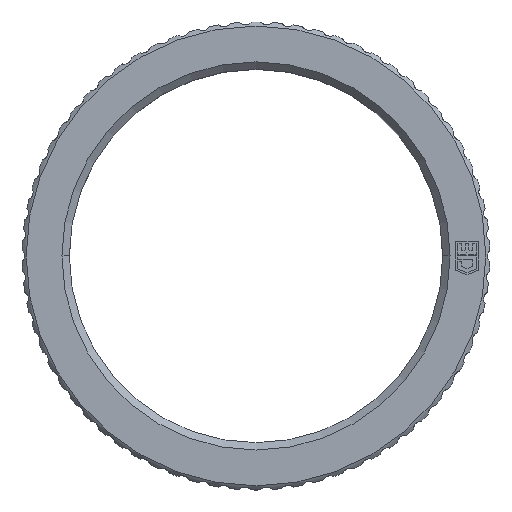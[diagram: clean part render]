
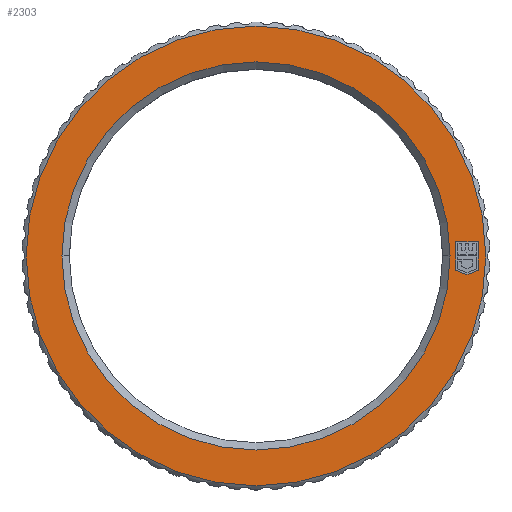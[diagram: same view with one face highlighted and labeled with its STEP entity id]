
A CAD part, top view. The second image highlights one B-rep face of the part: STEP entity #2303.
In plain terms, the highlighted planar face has unit normal (0, 0, 1).
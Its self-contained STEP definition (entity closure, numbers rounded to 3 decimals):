
#2011 = VERTEX_POINT ( 'NONE', #4469 ) ;
#2194 = VERTEX_POINT ( 'NONE', #4862 ) ;
#2197 = EDGE_CURVE ( 'NONE', #2194, #2011, #4861, .T. ) ;
#2228 = EDGE_CURVE ( 'NONE', #2229, #2235, #4926, .T. ) ;
#2229 = VERTEX_POINT ( 'NONE', #4917 ) ;
#2235 = VERTEX_POINT ( 'NONE', #4965 ) ;
#2291 = EDGE_LOOP ( 'NONE', ( #2372, #2362 ) ) ;
#2292 = EDGE_CURVE ( 'NONE', #2011, #2194, #5110, .T. ) ;
#2293 = ORIENTED_EDGE ( 'NONE', *, *, #2294, .T. ) ;
#2294 = EDGE_CURVE ( 'NONE', #2371, #2354, #5105, .T. ) ;
#2295 = ORIENTED_EDGE ( 'NONE', *, *, #2343, .T. ) ;
#2303 = ADVANCED_FACE ( 'NONE', ( #5141, #5140, #5139 ), #5138, .F. ) ;
#2304 = EDGE_LOOP ( 'NONE', ( #2305, #2353 ) ) ;
#2305 = ORIENTED_EDGE ( 'NONE', *, *, #2292, .T. ) ;
#2337 = EDGE_LOOP ( 'NONE', ( #2413, #2351, #2293, #2295, #2344 ) ) ;
#2343 = EDGE_CURVE ( 'NONE', #2354, #2361, #5225, .T. ) ;
#2344 = ORIENTED_EDGE ( 'NONE', *, *, #2345, .T. ) ;
#2345 = EDGE_CURVE ( 'NONE', #2361, #2407, #5221, .T. ) ;
#2351 = ORIENTED_EDGE ( 'NONE', *, *, #2352, .T. ) ;
#2352 = EDGE_CURVE ( 'NONE', #2401, #2371, #5275, .T. ) ;
#2353 = ORIENTED_EDGE ( 'NONE', *, *, #2197, .T. ) ;
#2354 = VERTEX_POINT ( 'NONE', #5266 ) ;
#2361 = VERTEX_POINT ( 'NONE', #5254 ) ;
#2362 = ORIENTED_EDGE ( 'NONE', *, *, #2402, .T. ) ;
#2371 = VERTEX_POINT ( 'NONE', #5301 ) ;
#2372 = ORIENTED_EDGE ( 'NONE', *, *, #2228, .T. ) ;
#2401 = VERTEX_POINT ( 'NONE', #5364 ) ;
#2402 = EDGE_CURVE ( 'NONE', #2235, #2229, #5362, .T. ) ;
#2407 = VERTEX_POINT ( 'NONE', #5348 ) ;
#2413 = ORIENTED_EDGE ( 'NONE', *, *, #2414, .T. ) ;
#2414 = EDGE_CURVE ( 'NONE', #2407, #2401, #5402, .T. ) ;
#4469 = CARTESIAN_POINT ( 'NONE',  ( -28., 0., 0. ) ) ;
#4857 = DIRECTION ( 'NONE',  ( 1., 0., 0. ) ) ;
#4858 = DIRECTION ( 'NONE',  ( 0., 0., 1. ) ) ;
#4859 = CARTESIAN_POINT ( 'NONE',  ( 0., 0., 0. ) ) ;
#4860 = AXIS2_PLACEMENT_3D ( 'NONE', #4859, #4858, #4857 ) ;
#4861 = CIRCLE ( 'NONE', #4860, 28. ) ;
#4862 = CARTESIAN_POINT ( 'NONE',  ( 28., 0., 0. ) ) ;
#4917 = CARTESIAN_POINT ( 'NONE',  ( 23.64, 0., 0. ) ) ;
#4918 = DIRECTION ( 'NONE',  ( -1., 0., 0. ) ) ;
#4919 = DIRECTION ( 'NONE',  ( 0., 0., -1. ) ) ;
#4920 = CARTESIAN_POINT ( 'NONE',  ( 0., 0., 0. ) ) ;
#4921 = AXIS2_PLACEMENT_3D ( 'NONE', #4920, #4919, #4918 ) ;
#4926 = CIRCLE ( 'NONE', #4921, 23.64 ) ;
#4965 = CARTESIAN_POINT ( 'NONE',  ( -23.64, 0., 0. ) ) ;
#5102 = DIRECTION ( 'NONE',  ( 1., 0., 0. ) ) ;
#5103 = VECTOR ( 'NONE', #5102, 1000. ) ;
#5104 = CARTESIAN_POINT ( 'NONE',  ( 24.35, 1.72, 0. ) ) ;
#5105 = LINE ( 'NONE', #5104, #5103 ) ;
#5106 = DIRECTION ( 'NONE',  ( 1., 0., 0. ) ) ;
#5107 = DIRECTION ( 'NONE',  ( 0., 0., 1. ) ) ;
#5108 = CARTESIAN_POINT ( 'NONE',  ( 0., 0., 0. ) ) ;
#5109 = AXIS2_PLACEMENT_3D ( 'NONE', #5108, #5107, #5106 ) ;
#5110 = CIRCLE ( 'NONE', #5109, 28. ) ;
#5134 = DIRECTION ( 'NONE',  ( -1., 0., 0. ) ) ;
#5135 = DIRECTION ( 'NONE',  ( 0., 0., -1. ) ) ;
#5136 = CARTESIAN_POINT ( 'NONE',  ( 0., 0., 0. ) ) ;
#5137 = AXIS2_PLACEMENT_3D ( 'NONE', #5136, #5135, #5134 ) ;
#5138 = PLANE ( 'NONE',  #5137 ) ;
#5139 = FACE_BOUND ( 'NONE', #2337, .T. ) ;
#5140 = FACE_BOUND ( 'NONE', #2291, .T. ) ;
#5141 = FACE_OUTER_BOUND ( 'NONE', #2304, .T. ) ;
#5218 = DIRECTION ( 'NONE',  ( -0.924, -0.383, 0. ) ) ;
#5219 = VECTOR ( 'NONE', #5218, 1000. ) ;
#5220 = CARTESIAN_POINT ( 'NONE',  ( 25.7, -2.28, 0. ) ) ;
#5221 = LINE ( 'NONE', #5220, #5219 ) ;
#5222 = DIRECTION ( 'NONE',  ( 0., -1., 0. ) ) ;
#5223 = VECTOR ( 'NONE', #5222, 1000. ) ;
#5224 = CARTESIAN_POINT ( 'NONE',  ( 27.05, 1.72, 0. ) ) ;
#5225 = LINE ( 'NONE', #5224, #5223 ) ;
#5254 = CARTESIAN_POINT ( 'NONE',  ( 27.05, -1.721, 0. ) ) ;
#5266 = CARTESIAN_POINT ( 'NONE',  ( 27.05, 1.72, 0. ) ) ;
#5267 = DIRECTION ( 'NONE',  ( 0., 1., 0. ) ) ;
#5268 = VECTOR ( 'NONE', #5267, 1000. ) ;
#5269 = CARTESIAN_POINT ( 'NONE',  ( 24.35, -1.721, 0. ) ) ;
#5275 = LINE ( 'NONE', #5269, #5268 ) ;
#5301 = CARTESIAN_POINT ( 'NONE',  ( 24.35, 1.72, 0. ) ) ;
#5348 = CARTESIAN_POINT ( 'NONE',  ( 25.7, -2.28, 0. ) ) ;
#5358 = DIRECTION ( 'NONE',  ( -1., 0., 0. ) ) ;
#5359 = DIRECTION ( 'NONE',  ( 0., 0., -1. ) ) ;
#5360 = CARTESIAN_POINT ( 'NONE',  ( 0., 0., 0. ) ) ;
#5361 = AXIS2_PLACEMENT_3D ( 'NONE', #5360, #5359, #5358 ) ;
#5362 = CIRCLE ( 'NONE', #5361, 23.64 ) ;
#5364 = CARTESIAN_POINT ( 'NONE',  ( 24.35, -1.721, 0. ) ) ;
#5399 = DIRECTION ( 'NONE',  ( -0.924, 0.383, 0. ) ) ;
#5400 = VECTOR ( 'NONE', #5399, 1000. ) ;
#5401 = CARTESIAN_POINT ( 'NONE',  ( 25.7, -2.28, 0. ) ) ;
#5402 = LINE ( 'NONE', #5401, #5400 ) ;
